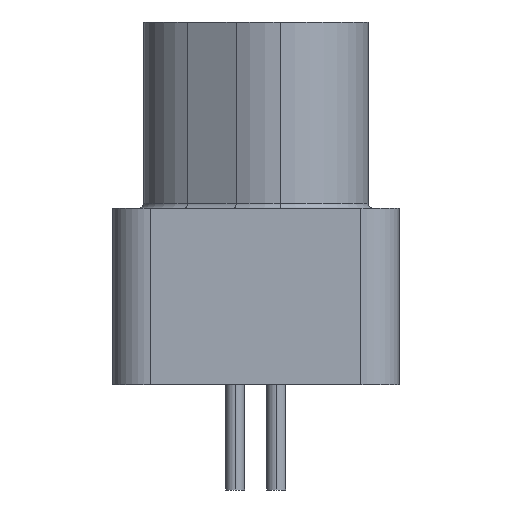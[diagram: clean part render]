
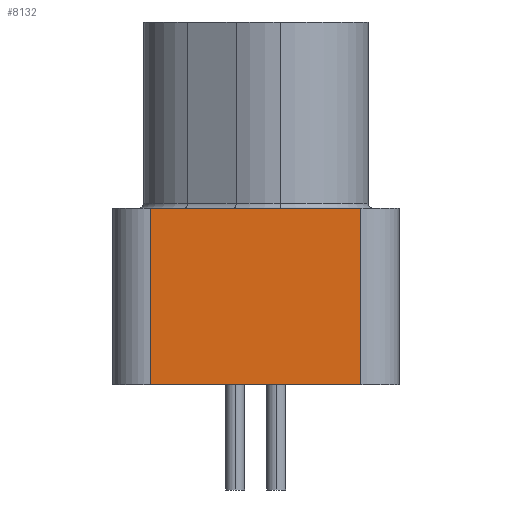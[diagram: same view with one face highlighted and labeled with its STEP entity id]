
A CAD part, left-side view. The second image highlights one B-rep face of the part: STEP entity #8132.
In plain terms, the highlighted planar face has unit normal (-1, 0, 0).
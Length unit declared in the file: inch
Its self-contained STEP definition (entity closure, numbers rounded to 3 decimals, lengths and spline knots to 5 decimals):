
#130 = VERTEX_POINT ( 'NONE', #11808 ) ;
#213 = VERTEX_POINT ( 'NONE', #11840 ) ;
#342 = VERTEX_POINT ( 'NONE', #7459 ) ;
#661 = EDGE_LOOP ( 'NONE', ( #6182, #2899, #2830, #2910 ) ) ;
#2830 = ORIENTED_EDGE ( 'NONE', *, *, #11241, .F. ) ;
#2899 = ORIENTED_EDGE ( 'NONE', *, *, #11240, .F. ) ;
#2910 = ORIENTED_EDGE ( 'NONE', *, *, #11228, .T. ) ;
#4176 = VERTEX_POINT ( 'NONE', #12204 ) ;
#4390 = AXIS2_PLACEMENT_3D ( 'NONE', #17893, #16971, #17118 ) ;
#6182 = ORIENTED_EDGE ( 'NONE', *, *, #11239, .T. ) ;
#7459 = CARTESIAN_POINT ( 'NONE',  ( -0.3875, -0.11, -0.145 ) ) ;
#8132 = ADVANCED_FACE ( 'NONE', ( #16060 ), #16774, .T. ) ;
#10922 = VECTOR ( 'NONE', #13652, 39.37008 ) ;
#10924 = VECTOR ( 'NONE', #13651, 39.37008 ) ;
#10927 = LINE ( 'NONE', #13653, #10922 ) ;
#10928 = VECTOR ( 'NONE', #13633, 39.37008 ) ;
#10929 = LINE ( 'NONE', #13650, #10924 ) ;
#10942 = LINE ( 'NONE', #14435, #11002 ) ;
#10954 = LINE ( 'NONE', #13657, #10928 ) ;
#11002 = VECTOR ( 'NONE', #13746, 39.37008 ) ;
#11228 = EDGE_CURVE ( 'NONE', #4176, #213, #10942, .T. ) ;
#11239 = EDGE_CURVE ( 'NONE', #213, #130, #10954, .T. ) ;
#11240 = EDGE_CURVE ( 'NONE', #342, #130, #10927, .T. ) ;
#11241 = EDGE_CURVE ( 'NONE', #4176, #342, #10929, .T. ) ;
#11808 = CARTESIAN_POINT ( 'NONE',  ( -0.3875, 0.11, -0.145 ) ) ;
#11840 = CARTESIAN_POINT ( 'NONE',  ( -0.3875, 0.11, 0.04 ) ) ;
#12204 = CARTESIAN_POINT ( 'NONE',  ( -0.3875, -0.11, 0.04 ) ) ;
#13633 = DIRECTION ( 'NONE',  ( 0., 0., -1. ) ) ;
#13650 = CARTESIAN_POINT ( 'NONE',  ( -0.3875, -0.11, 0.04 ) ) ;
#13651 = DIRECTION ( 'NONE',  ( 0., 0., -1. ) ) ;
#13652 = DIRECTION ( 'NONE',  ( 0., 1., 0. ) ) ;
#13653 = CARTESIAN_POINT ( 'NONE',  ( -0.3875, -0.11, -0.145 ) ) ;
#13657 = CARTESIAN_POINT ( 'NONE',  ( -0.3875, 0.11, 0.04 ) ) ;
#13746 = DIRECTION ( 'NONE',  ( 0., 1., 0. ) ) ;
#14435 = CARTESIAN_POINT ( 'NONE',  ( -0.3875, -0.11, 0.04 ) ) ;
#16060 = FACE_OUTER_BOUND ( 'NONE', #661, .T. ) ;
#16774 = PLANE ( 'NONE',  #4390 ) ;
#16971 = DIRECTION ( 'NONE',  ( -1., 0., 0. ) ) ;
#17118 = DIRECTION ( 'NONE',  ( 0., 0., 1. ) ) ;
#17893 = CARTESIAN_POINT ( 'NONE',  ( -0.3875, -0.11, 0.04 ) ) ;
